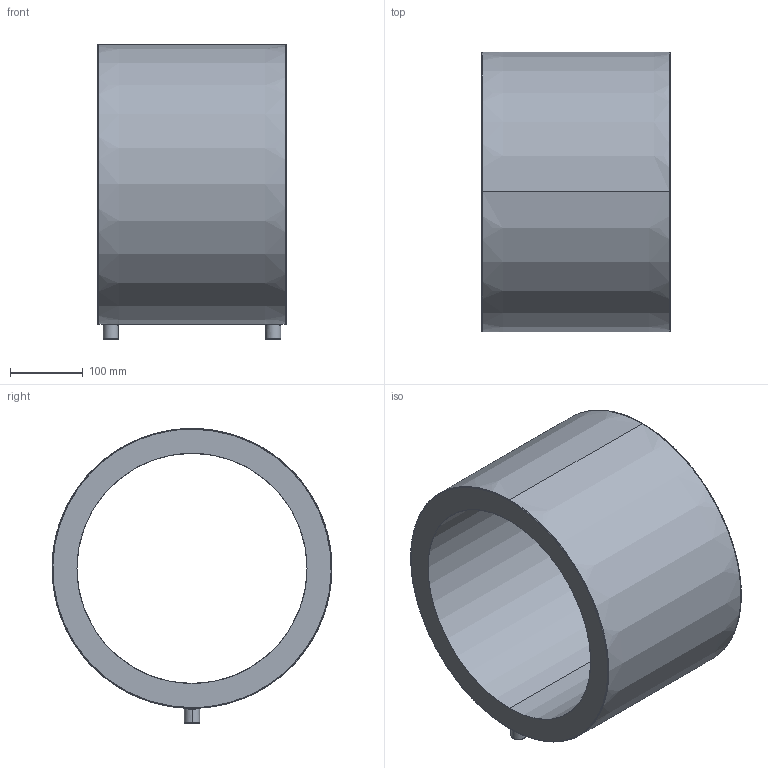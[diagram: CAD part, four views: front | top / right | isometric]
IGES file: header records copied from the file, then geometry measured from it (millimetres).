
Start section: SolidWorks IGES file using analytic representation for surfaces
Global section: file name: G:\Group\Marketing\Public\CAD Offering - Website\1. coupler\315mm coupler.IGS; native system: SolidWorks 2019; preprocessor: SolidWorks 2019; author: hwegrzynska; date: 200122.134850; units: millimetre
Bounding box: 260 x 386 x 407 mm (x, y, z)
Surface area: 653601.5 mm2 (no closed solid volume)
Topology: 0 solids, 0 shells, 58 faces, 1004 edges, 1004 vertices
Faces by surface type: bspline 34, revolution 24
